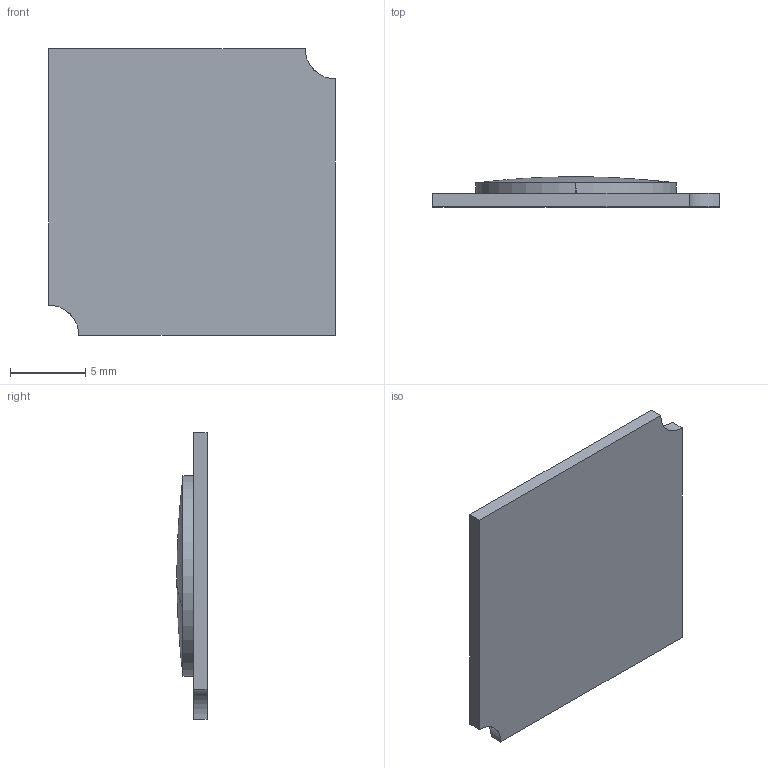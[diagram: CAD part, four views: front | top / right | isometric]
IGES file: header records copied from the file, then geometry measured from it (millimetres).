
Start section: SolidWorks IGES file using analytic representation for surfaces
Global section: file name: C:\Users\yo-otk\Desktop\新調色\UD320_3D.IGS,15; native system: HSolidWorks 2023; preprocessor: SolidWorks 2023; author: yo-otk; date: 250523.162208; units: millimetre
Bounding box: 19 x 2 x 19 mm (x, y, z)
Surface area: 1129.8 mm2 (no closed solid volume)
Topology: 0 solids, 0 shells, 111 faces, 1108 edges, 1107 vertices
Faces by surface type: bspline 60, revolution 51
